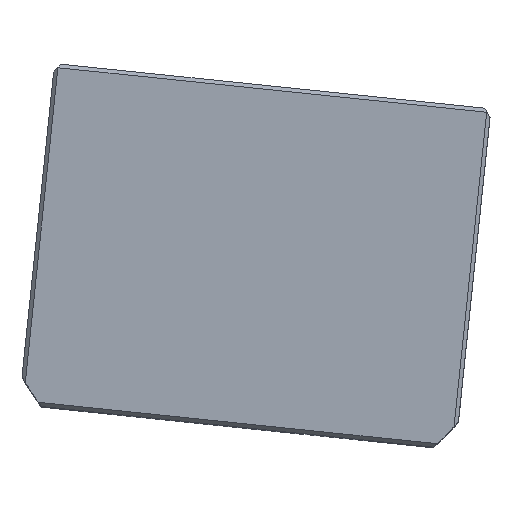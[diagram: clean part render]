
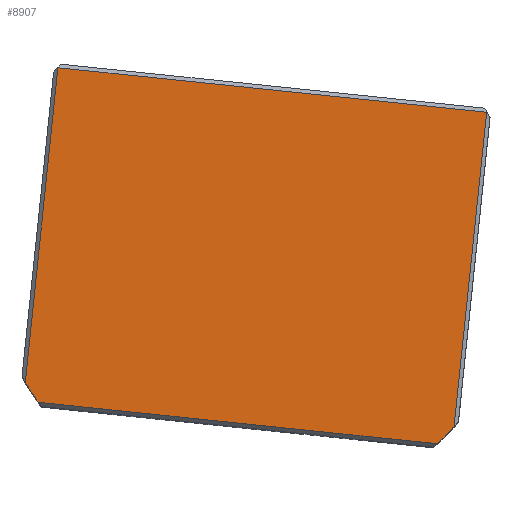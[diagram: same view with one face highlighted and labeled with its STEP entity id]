
A CAD part, top view. The second image highlights one B-rep face of the part: STEP entity #8907.
In plain terms, the highlighted planar face has unit normal (0, 0, 1) as drawn and (0, 0, -1) by its records, which use the part's own axes.
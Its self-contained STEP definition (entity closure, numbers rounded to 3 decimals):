
#344 = LINE ( 'NONE', #9802, #14236 ) ;
#395 = VECTOR ( 'NONE', #23539, 1000. ) ;
#867 = ORIENTED_EDGE ( 'NONE', *, *, #7656, .T. ) ;
#968 = CARTESIAN_POINT ( 'NONE',  ( 52.098, 43.5, 0. ) ) ;
#1022 = ORIENTED_EDGE ( 'NONE', *, *, #22267, .T. ) ;
#1779 = LINE ( 'NONE', #3270, #6068 ) ;
#2220 = CARTESIAN_POINT ( 'NONE',  ( -56., 0., 0. ) ) ;
#2221 = LINE ( 'NONE', #2220, #19732 ) ;
#3270 = CARTESIAN_POINT ( 'NONE',  ( 56., 0., 0. ) ) ;
#3406 = CIRCLE ( 'NONE', #12955, 69.5 ) ;
#3669 = CARTESIAN_POINT ( 'NONE',  ( 0., -2.5, 0. ) ) ;
#4029 = VERTEX_POINT ( 'NONE', #968 ) ;
#5286 = ORIENTED_EDGE ( 'NONE', *, *, #14407, .F. ) ;
#5476 = DIRECTION ( 'NONE',  ( 1., 0., 0. ) ) ;
#6068 = VECTOR ( 'NONE', #6893, 1000. ) ;
#6601 = CARTESIAN_POINT ( 'NONE',  ( -52.098, 43.5, 0. ) ) ;
#6681 = DIRECTION ( 'NONE',  ( 1., 0., 0. ) ) ;
#6893 = DIRECTION ( 'NONE',  ( 0., -1., 0. ) ) ;
#7269 = VERTEX_POINT ( 'NONE', #13624 ) ;
#7621 = CIRCLE ( 'NONE', #19033, 69.5 ) ;
#7656 = EDGE_CURVE ( 'NONE', #13158, #4029, #344, .T. ) ;
#8200 = EDGE_CURVE ( 'NONE', #11716, #7269, #1779, .T. ) ;
#8418 = AXIS2_PLACEMENT_3D ( 'NONE', #13833, #17448, #6681 ) ;
#8907 = ADVANCED_FACE ( 'NONE', ( #12223 ), #11992, .F. ) ;
#9802 = CARTESIAN_POINT ( 'NONE',  ( 0., 43.5, 0. ) ) ;
#10041 = LINE ( 'NONE', #10832, #395 ) ;
#10790 = CARTESIAN_POINT ( 'NONE',  ( 0., -2.5, 0. ) ) ;
#10832 = CARTESIAN_POINT ( 'NONE',  ( 0., -43.5, 0. ) ) ;
#11065 = VERTEX_POINT ( 'NONE', #12578 ) ;
#11150 = ORIENTED_EDGE ( 'NONE', *, *, #8200, .T. ) ;
#11716 = VERTEX_POINT ( 'NONE', #12623 ) ;
#11992 = PLANE ( 'NONE',  #8418 ) ;
#12223 = FACE_OUTER_BOUND ( 'NONE', #17718, .T. ) ;
#12578 = CARTESIAN_POINT ( 'NONE',  ( -56., 38.661, 0. ) ) ;
#12622 = DIRECTION ( 'NONE',  ( 1., 0., 0. ) ) ;
#12623 = CARTESIAN_POINT ( 'NONE',  ( 56., 38.661, 0. ) ) ;
#12955 = AXIS2_PLACEMENT_3D ( 'NONE', #3669, #16248, #5476 ) ;
#13158 = VERTEX_POINT ( 'NONE', #6601 ) ;
#13493 = CARTESIAN_POINT ( 'NONE',  ( -56., -43.5, 0. ) ) ;
#13624 = CARTESIAN_POINT ( 'NONE',  ( 56., -43.5, 0. ) ) ;
#13833 = CARTESIAN_POINT ( 'NONE',  ( 0., 0., 0. ) ) ;
#14236 = VECTOR ( 'NONE', #18918, 1000. ) ;
#14392 = EDGE_CURVE ( 'NONE', #13158, #11065, #7621, .T. ) ;
#14407 = EDGE_CURVE ( 'NONE', #11716, #4029, #3406, .T. ) ;
#14829 = DIRECTION ( 'NONE',  ( 0., 1., 0. ) ) ;
#14906 = VERTEX_POINT ( 'NONE', #13493 ) ;
#16248 = DIRECTION ( 'NONE',  ( 0., 0., 1. ) ) ;
#16480 = EDGE_CURVE ( 'NONE', #14906, #11065, #2221, .T. ) ;
#17448 = DIRECTION ( 'NONE',  ( 0., 0., 1. ) ) ;
#17718 = EDGE_LOOP ( 'NONE', ( #5286, #11150, #1022, #20848, #21964, #867 ) ) ;
#18918 = DIRECTION ( 'NONE',  ( 1., 0., 0. ) ) ;
#19033 = AXIS2_PLACEMENT_3D ( 'NONE', #10790, #23497, #12622 ) ;
#19732 = VECTOR ( 'NONE', #14829, 1000. ) ;
#20848 = ORIENTED_EDGE ( 'NONE', *, *, #16480, .T. ) ;
#21964 = ORIENTED_EDGE ( 'NONE', *, *, #14392, .F. ) ;
#22267 = EDGE_CURVE ( 'NONE', #7269, #14906, #10041, .T. ) ;
#23497 = DIRECTION ( 'NONE',  ( 0., 0., 1. ) ) ;
#23539 = DIRECTION ( 'NONE',  ( -1., 0., 0. ) ) ;
